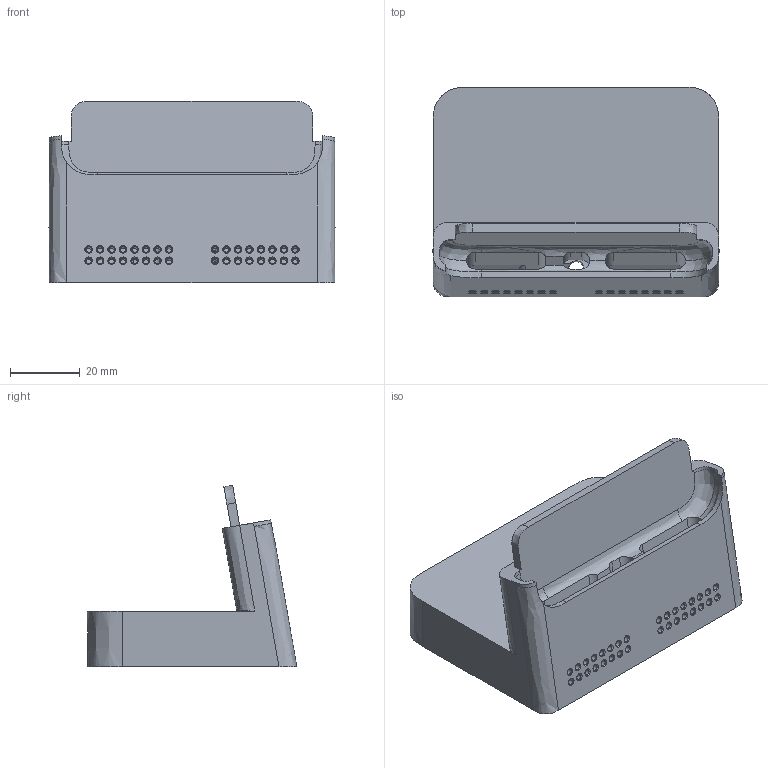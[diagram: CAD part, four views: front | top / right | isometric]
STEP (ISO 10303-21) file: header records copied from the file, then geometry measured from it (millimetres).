
FILE_DESCRIPTION((''),'2;1');
FILE_NAME('IPHONE6PLUS-DOCK-REV3','2014-11-11T',('dpfautz'),('<>'),'PRO/ENGINEER BY PARAMETRIC TECHNOLOGY CORPORATION, 2012480','PRO/ENGINEER BY PARAMETRIC TECHNOLOGY CORPORATION, 2012480','');
FILE_SCHEMA(('CONFIG_CONTROL_DESIGN'));
Length unit declared in the file: inch
Products named in the file (1): IPHONE6PLUS-DOCK-REV3
Bounding box: 82.29 x 60.33 x 52.14 mm (x, y, z)
Volume: 87239.5 mm3; surface area: 24502.3 mm2
Topology: 1 solids, 1 shells, 343 faces, 894 edges, 546 vertices
Faces by surface type: cone 116, cylinder 88, plane 78, bspline 48, torus 9, extrusion 4
Entity records: 13503 total; most frequent: CARTESIAN_POINT 5154, ORIENTED_EDGE 1788, DIRECTION 1650, EDGE_CURVE 894, AXIS2_PLACEMENT_3D 599, VERTEX_POINT 546, VECTOR 452, LINE 448
